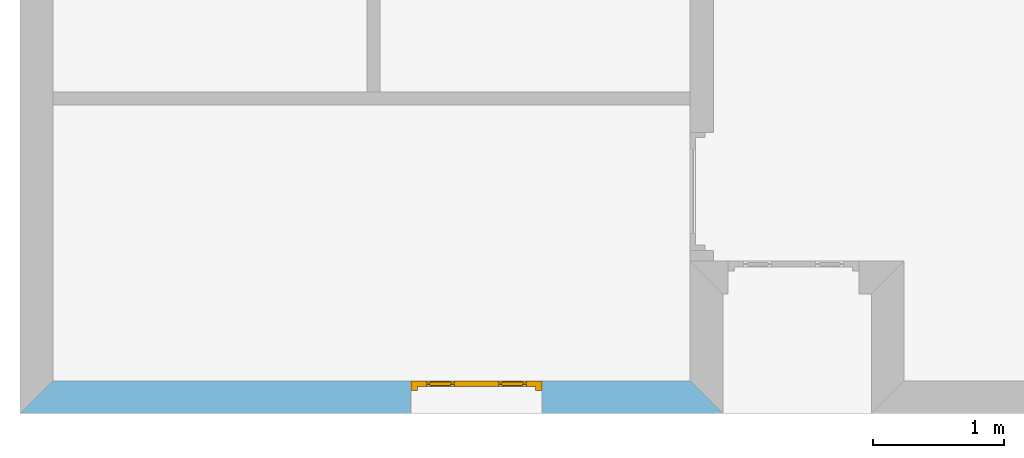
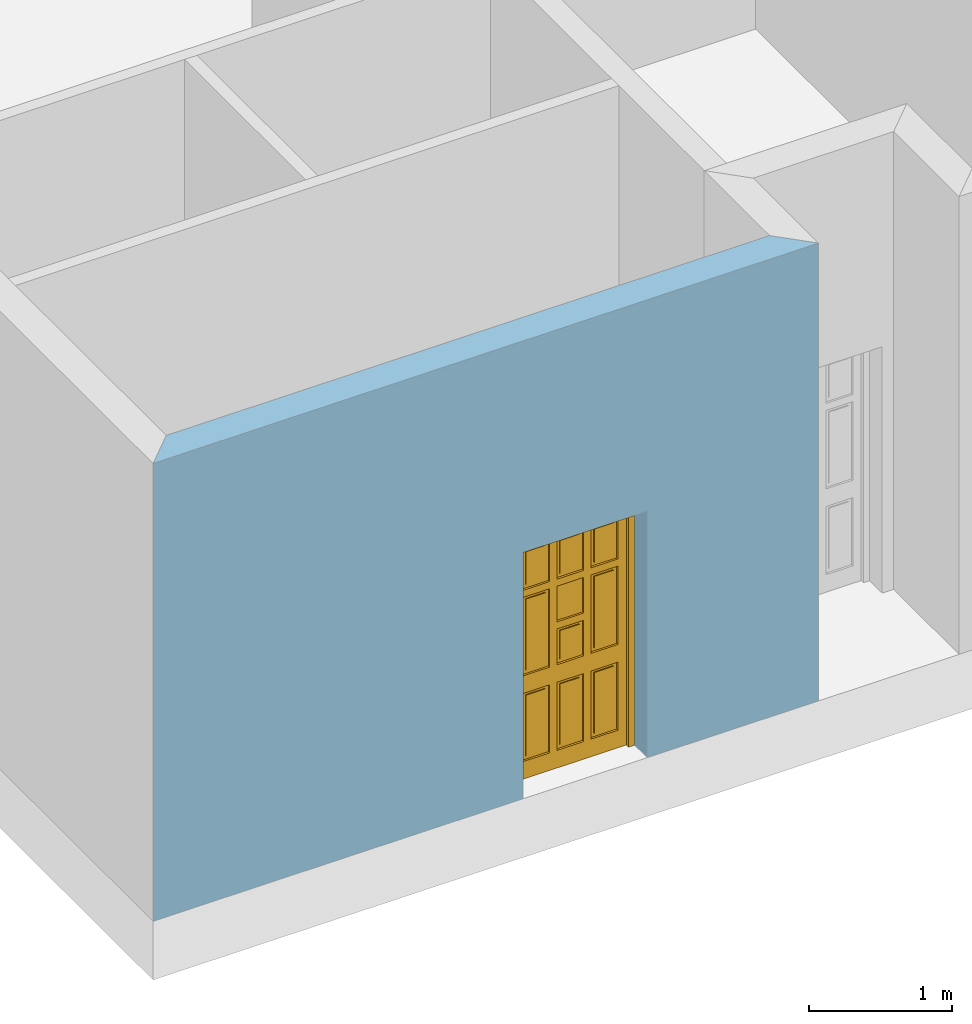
# One storey, part 3 of 5: 1 door, 1 opening, plus 1 element that does not belong to this part.
"""IFC2X3 building model written with IfcOpenShell, lengths in metres."""

from ifc_helpers import new_model, entity, si_unit, converted_unit, direction, frame, frame_2d, origin_with_axes, place, context, project, spatial, polyline, rectangle, outline, extrude, faceted_brep, material, layer, layer_set, layer_usage, type_object, element, fill, save


model = new_model("IFC2X3")

# Units and contexts
context_of_model = context(None, 3, precision=1e-05, world=origin_with_axes(), true_north=direction((6.123234e-17, 1.0)))
plan_context = context("Plan", 3, precision=1e-05, world=origin_with_axes(), true_north=direction((6.123234e-17, 1.0)))
model_context = context("Model", 3, precision=1e-05, world=origin_with_axes(), true_north=direction((6.123234e-17, 1.0)))
ifc_project = project(units=[si_unit("LENGTHUNIT", "METRE"), si_unit("AREAUNIT", "SQUARE_METRE"), si_unit("VOLUMEUNIT", "CUBIC_METRE"), converted_unit("PLANEANGLEUNIT", "DEGREE", entity("IfcPlaneAngleMeasure", 0.017453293), si_unit("PLANEANGLEUNIT", "RADIAN"), dimensions=[0, 0, 0, 0, 0, 0, 0]), si_unit("SOLIDANGLEUNIT", "STERADIAN"), si_unit("MASSUNIT", "GRAM"), si_unit("TIMEUNIT", "SECOND"), si_unit("THERMODYNAMICTEMPERATUREUNIT", "DEGREE_CELSIUS"), si_unit("LUMINOUSINTENSITYUNIT", "LUMEN")], contexts=[context_of_model, plan_context, model_context])

# Site, building, storey
site_placement = place(None, origin_with_axes())
site = spatial("IfcSite", under=ifc_project, at=site_placement, Name="Por defecto Sitio", CompositionType="ELEMENT")
building_placement = place(site_placement, origin_with_axes())
building = spatial("IfcBuilding", under=site, at=building_placement, Name="Por defecto Edificio", CompositionType="ELEMENT")
storey_placement = place(building_placement, origin_with_axes())
storey = spatial("IfcBuildingStorey", under=building, at=storey_placement, Name="Planta Baja", CompositionType="ELEMENT", Elevation=0.0)

# Wall, opening, door
ifc_material = material(Name="Ladrillo común")
ifc_layer = layer(ifc_material, 0.25, ventilated="UNKNOWN")
ifc_layer_set = layer_set([ifc_layer], Name="Ladrillo común")
ifc_layer_usage = layer_usage(ifc_layer_set, "AXIS2", "NEGATIVE", 0.0)
wall_type = type_object("IfcWallType", Name="Ladrillo común", PredefinedType="NOTDEFINED")
wall_placement = place(storey_placement, frame((5.3619878, 0.0, 0.0), z_axis=(0.0, 0.0, 1.0), x_axis=(-1.0, 0.0, 0.0)))
wall = element("IfcWallStandardCase", 1, at=wall_placement, inside=storey, type_object=wall_type, material=ifc_layer_usage, Name="Muro-010", context=context_of_model, shape_type="SweptSolid", body=[
    extrude(outline(polyline([(0.25, -0.25), (5.1119878, -0.25), (5.3619878, 0.0), (0.0, 0.0), (0.25, -0.25)])), origin_with_axes(), (0.0, 0.0, 1.0), 3.9),
])
opening_placement = place(wall_placement, frame((1.8805093, -0.25, 0.0), z_axis=(0.0, 0.0, 1.0), x_axis=(1.0, 0.0, 0.0)))
opening = element("IfcOpeningElement", 2, at=opening_placement, cuts=wall, ObjectType="Opening", context=model_context, shape_type="SweptSolid", body=[
    extrude(rectangle(XDim=1.0, YDim=2.1, at=frame_2d((0.0, 1.05), x_axis=(-1.0, 0.0))), frame((0.0, 0.0, 0.0), z_axis=(0.0, 1.0, 0.0), x_axis=(-1.0, 0.0, 0.0)), (0.0, 0.0, 1.0), 0.25),
])
door_style = type_object("IfcDoorStyle", Name="P1 Entrada 12", ConstructionType="NOTDEFINED", OperationType="SINGLE_SWING_RIGHT", ParameterTakesPrecedence=False, Sizeable=False)
door_placement = place(opening_placement, frame((0.5, 0.075, 0.0), z_axis=(0.0, 0.0, 1.0), x_axis=(-1.0, 0.0, 0.0)))
door = element("IfcDoor", 3, at=door_placement, inside=storey, type_object=door_style, Name="P04", OverallHeight=2.1, OverallWidth=1.0, context=model_context, shape_type="Brep", body=[
    faceted_brep([(0.05, 0.031, -2.694223e-18), (0.05, 0.031, 2.05), (0.05, 2.220446e-16, 2.05), (0.05, 3.3306691e-16, -4.5924255e-18), (0.038, 0.031, 2.05), (0.038, 0.031, -2.694223e-18), (0.038, 0.075, 2.05), (0.0, 0.075, 2.05), (0.0, 2.220446e-16, 2.05), (0.0, 0.0, 0.0), (0.0, 0.075, 3.7493995e-33), (0.038, 0.075, 3.4644451e-33)], [[[0, 1, 2, 3]], [[4, 1, 0, 5]], [[4, 6, 7, 8, 2, 1]], [[9, 3, 2, 8]], [[5, 0, 3, 9, 10, 11]], [[6, 4, 5, 11]], [[6, 11, 10, 7]], [[8, 7, 10, 9]]]),
    faceted_brep([(0.962, 0.031, 2.05), (0.95, 0.031, 2.05), (0.95, 0.0, 2.05), (1.0, 0.0, 2.05), (1.0, 0.075, 2.05), (0.962, 0.075, 2.05), (0.962, 0.031, -2.694223e-18), (0.95, 0.031, -2.694223e-18), (0.95, 1.110223e-16, -4.5924255e-18), (1.0, 1.110223e-16, -4.5924255e-18), (1.0, 0.075, -3.7493995e-33), (0.962, 0.075, -3.4644451e-33)], [[[0, 1, 2, 3, 4, 5]], [[1, 0, 6, 7]], [[1, 7, 8, 2]], [[8, 9, 3, 2]], [[9, 10, 4, 3]], [[11, 5, 4, 10]], [[0, 5, 11, 6]], [[6, 11, 10, 9, 8, 7]]]),
    faceted_brep([(0.038, 0.075, 2.062), (0.038, 0.075, 2.05), (0.0, 0.075, 2.05), (0.0, 0.075, 2.1), (1.0, 0.075, 2.1), (1.0, 0.075, 2.05), (0.962, 0.075, 2.05), (0.962, 0.075, 2.062), (0.038, 0.031, 2.062), (0.038, 0.031, 2.05), (0.05, 0.031, 2.05), (0.05, 2.220446e-16, 2.05), (0.0, 2.220446e-16, 2.05), (0.0, 2.220446e-16, 2.1), (1.0, 0.0, 2.1), (1.0, 0.0, 2.05), (0.962, 0.031, 2.05), (0.95, 0.0, 2.05), (0.95, 0.031, 2.05), (0.962, 0.031, 2.062)], [[[0, 1, 2, 3, 4, 5, 6, 7]], [[1, 0, 8, 9]], [[9, 10, 11, 12, 2, 1]], [[13, 3, 2, 12]], [[14, 4, 3, 13]], [[15, 5, 4, 14]], [[16, 6, 5, 15, 17, 18]], [[7, 6, 16, 19]], [[0, 7, 19, 8]], [[16, 18, 10, 9, 8, 19]], [[10, 18, 17, 11]], [[14, 13, 12, 11, 17, 15]]]),
    faceted_brep([(0.962, 0.075, 0.15), (0.962, 0.031, 0.15), (0.882, 0.031, 0.15), (0.882, 0.075, 0.15), (0.962, 0.075, 1.952), (0.962, 0.031, 1.952), (0.882, 0.031, 1.952), (0.882, 0.031, 1.6085333), (0.882, 0.031, 1.5485333), (0.882, 0.031, 0.88), (0.882, 0.031, 0.73), (0.882, 0.075, 0.73), (0.882, 0.075, 0.88), (0.882, 0.075, 1.5485333), (0.882, 0.075, 1.6085333), (0.882, 0.075, 1.952)], [[[0, 1, 2, 3]], [[4, 5, 1, 0]], [[1, 5, 6, 7, 8, 9, 10, 2]], [[3, 2, 10, 11]], [[0, 3, 11, 12, 13, 14, 15, 4]], [[15, 6, 5, 4]], [[14, 7, 6, 15]], [[13, 8, 7, 14]], [[12, 9, 8, 13]], [[11, 10, 9, 12]]]),
    faceted_brep([(0.038, 0.075, 0.15), (0.038, 0.031, 0.15), (0.038, 0.031, 1.952), (0.038, 0.075, 1.952), (0.118, 0.075, 0.15), (0.118, 0.031, 0.15), (0.118, 0.031, 0.73), (0.118, 0.031, 0.88), (0.118, 0.031, 1.5485333), (0.118, 0.031, 1.6085333), (0.118, 0.031, 1.952), (0.118, 0.075, 1.952), (0.118, 0.075, 1.6085333), (0.118, 0.075, 1.5485333), (0.118, 0.075, 0.88), (0.118, 0.075, 0.73)], [[[0, 1, 2, 3]], [[4, 5, 1, 0]], [[1, 5, 6, 7, 8, 9, 10, 2]], [[3, 2, 10, 11]], [[0, 3, 11, 12, 13, 14, 15, 4]], [[15, 6, 5, 4]], [[14, 7, 6, 15]], [[13, 8, 7, 14]], [[12, 9, 8, 13]], [[11, 10, 9, 12]]]),
    faceted_brep([(0.962, 0.075, -3.4644451e-33), (0.962, 0.031, -2.694223e-18), (0.038, 0.031, -2.694223e-18), (0.038, 0.075, 3.4644451e-33), (0.962, 0.075, 0.15), (0.962, 0.031, 0.15), (0.882, 0.031, 0.15), (0.66733333, 0.031, 0.15), (0.60733333, 0.031, 0.15), (0.39266667, 0.031, 0.15), (0.33266667, 0.031, 0.15), (0.118, 0.031, 0.15), (0.038, 0.031, 0.15), (0.038, 0.075, 0.15), (0.118, 0.075, 0.15), (0.33266667, 0.075, 0.15), (0.39266667, 0.075, 0.15), (0.60733333, 0.075, 0.15), (0.66733333, 0.075, 0.15), (0.882, 0.075, 0.15)], [[[0, 1, 2, 3]], [[4, 5, 1, 0]], [[1, 5, 6, 7, 8, 9, 10, 11, 12, 2]], [[3, 2, 12, 13]], [[0, 3, 13, 14, 15, 16, 17, 18, 19, 4]], [[19, 6, 5, 4]], [[18, 7, 6, 19]], [[17, 8, 7, 18]], [[16, 9, 8, 17]], [[15, 10, 9, 16]], [[14, 11, 10, 15]], [[13, 12, 11, 14]]]),
    faceted_brep([(0.962, 0.075, 2.062), (0.962, 0.031, 2.062), (0.962, 0.031, 1.952), (0.962, 0.075, 1.952), (0.038, 0.075, 2.062), (0.038, 0.031, 2.062), (0.038, 0.031, 1.952), (0.118, 0.031, 1.952), (0.33266667, 0.031, 1.952), (0.39266667, 0.031, 1.952), (0.60733333, 0.031, 1.952), (0.66733333, 0.031, 1.952), (0.882, 0.031, 1.952), (0.882, 0.075, 1.952), (0.66733333, 0.075, 1.952), (0.60733333, 0.075, 1.952), (0.39266667, 0.075, 1.952), (0.33266667, 0.075, 1.952), (0.118, 0.075, 1.952), (0.038, 0.075, 1.952)], [[[0, 1, 2, 3]], [[4, 5, 1, 0]], [[1, 5, 6, 7, 8, 9, 10, 11, 12, 2]], [[3, 2, 12, 13]], [[0, 3, 13, 14, 15, 16, 17, 18, 19, 4]], [[19, 6, 5, 4]], [[18, 7, 6, 19]], [[17, 8, 7, 18]], [[16, 9, 8, 17]], [[15, 10, 9, 16]], [[14, 11, 10, 15]], [[13, 12, 11, 14]]]),
    faceted_brep([(0.60733333, 0.075, 0.15), (0.60733333, 0.031, 0.15), (0.60733333, 0.031, 0.73), (0.60733333, 0.075, 0.73), (0.66733333, 0.075, 0.15), (0.66733333, 0.031, 0.15), (0.66733333, 0.031, 0.73), (0.66733333, 0.075, 0.73)], [[[0, 1, 2, 3]], [[4, 5, 1, 0]], [[1, 5, 6, 2]], [[3, 2, 6, 7]], [[0, 3, 7, 4]], [[7, 6, 5, 4]]]),
    faceted_brep([(0.60733333, 0.075, 0.88), (0.60733333, 0.031, 0.88), (0.60733333, 0.031, 1.1842667), (0.60733333, 0.075, 1.1842667), (0.66733333, 0.075, 0.88), (0.66733333, 0.031, 0.88), (0.66733333, 0.031, 1.5485333), (0.60733333, 0.031, 1.5485333), (0.60733333, 0.031, 1.2442667), (0.60733333, 0.075, 1.2442667), (0.60733333, 0.075, 1.5485333), (0.66733333, 0.075, 1.5485333)], [[[0, 1, 2, 3]], [[4, 5, 1, 0]], [[1, 5, 6, 7, 8, 2]], [[3, 2, 8, 9]], [[0, 3, 9, 10, 11, 4]], [[11, 6, 5, 4]], [[10, 7, 6, 11]], [[9, 8, 7, 10]]]),
    faceted_brep([(0.60733333, 0.075, 1.6085333), (0.60733333, 0.031, 1.6085333), (0.60733333, 0.031, 1.952), (0.60733333, 0.075, 1.952), (0.66733333, 0.075, 1.6085333), (0.66733333, 0.031, 1.6085333), (0.66733333, 0.031, 1.952), (0.66733333, 0.075, 1.952)], [[[0, 1, 2, 3]], [[4, 5, 1, 0]], [[1, 5, 6, 2]], [[3, 2, 6, 7]], [[0, 3, 7, 4]], [[7, 6, 5, 4]]]),
    faceted_brep([(0.33266667, 0.075, 0.15), (0.33266667, 0.031, 0.15), (0.33266667, 0.031, 0.73), (0.33266667, 0.075, 0.73), (0.39266667, 0.075, 0.15), (0.39266667, 0.031, 0.15), (0.39266667, 0.031, 0.73), (0.39266667, 0.075, 0.73)], [[[0, 1, 2, 3]], [[4, 5, 1, 0]], [[1, 5, 6, 2]], [[3, 2, 6, 7]], [[0, 3, 7, 4]], [[7, 6, 5, 4]]]),
    faceted_brep([(0.33266667, 0.075, 0.88), (0.33266667, 0.031, 0.88), (0.33266667, 0.031, 1.5485333), (0.33266667, 0.075, 1.5485333), (0.39266667, 0.075, 0.88), (0.39266667, 0.031, 0.88), (0.39266667, 0.031, 1.1842667), (0.39266667, 0.031, 1.2442667), (0.39266667, 0.031, 1.5485333), (0.39266667, 0.075, 1.5485333), (0.39266667, 0.075, 1.2442667), (0.39266667, 0.075, 1.1842667)], [[[0, 1, 2, 3]], [[4, 5, 1, 0]], [[1, 5, 6, 7, 8, 2]], [[3, 2, 8, 9]], [[0, 3, 9, 10, 11, 4]], [[11, 6, 5, 4]], [[10, 7, 6, 11]], [[9, 8, 7, 10]]]),
    faceted_brep([(0.33266667, 0.075, 1.6085333), (0.33266667, 0.031, 1.6085333), (0.33266667, 0.031, 1.952), (0.33266667, 0.075, 1.952), (0.39266667, 0.075, 1.6085333), (0.39266667, 0.031, 1.6085333), (0.39266667, 0.031, 1.952), (0.39266667, 0.075, 1.952)], [[[0, 1, 2, 3]], [[4, 5, 1, 0]], [[1, 5, 6, 2]], [[3, 2, 6, 7]], [[0, 3, 7, 4]], [[7, 6, 5, 4]]]),
    faceted_brep([(0.882, 0.075, 1.5485333), (0.882, 0.031, 1.5485333), (0.66733333, 0.031, 1.5485333), (0.66733333, 0.075, 1.5485333), (0.882, 0.075, 1.6085333), (0.882, 0.031, 1.6085333), (0.66733333, 0.031, 1.6085333), (0.60733333, 0.031, 1.6085333), (0.39266667, 0.031, 1.6085333), (0.33266667, 0.031, 1.6085333), (0.118, 0.031, 1.6085333), (0.118, 0.031, 1.5485333), (0.33266667, 0.031, 1.5485333), (0.39266667, 0.031, 1.5485333), (0.60733333, 0.031, 1.5485333), (0.60733333, 0.075, 1.5485333), (0.39266667, 0.075, 1.5485333), (0.33266667, 0.075, 1.5485333), (0.118, 0.075, 1.5485333), (0.118, 0.075, 1.6085333), (0.33266667, 0.075, 1.6085333), (0.39266667, 0.075, 1.6085333), (0.60733333, 0.075, 1.6085333), (0.66733333, 0.075, 1.6085333)], [[[0, 1, 2, 3]], [[4, 5, 1, 0]], [[1, 5, 6, 7, 8, 9, 10, 11, 12, 13, 14, 2]], [[3, 2, 14, 15]], [[0, 3, 15, 16, 17, 18, 19, 20, 21, 22, 23, 4]], [[23, 6, 5, 4]], [[22, 7, 6, 23]], [[21, 8, 7, 22]], [[20, 9, 8, 21]], [[19, 10, 9, 20]], [[18, 11, 10, 19]], [[17, 12, 11, 18]], [[16, 13, 12, 17]], [[15, 14, 13, 16]]]),
    faceted_brep([(0.39266667, 0.075, 1.1842667), (0.39266667, 0.031, 1.1842667), (0.39266667, 0.031, 1.2442667), (0.39266667, 0.075, 1.2442667), (0.60733333, 0.075, 1.1842667), (0.60733333, 0.031, 1.1842667), (0.60733333, 0.031, 1.2442667), (0.60733333, 0.075, 1.2442667)], [[[0, 1, 2, 3]], [[4, 5, 1, 0]], [[1, 5, 6, 2]], [[3, 2, 6, 7]], [[0, 3, 7, 4]], [[7, 6, 5, 4]]]),
    faceted_brep([(0.882, 0.075, 0.73), (0.882, 0.031, 0.73), (0.66733333, 0.031, 0.73), (0.66733333, 0.075, 0.73), (0.882, 0.075, 0.88), (0.882, 0.031, 0.88), (0.66733333, 0.031, 0.88), (0.60733333, 0.031, 0.88), (0.39266667, 0.031, 0.88), (0.33266667, 0.031, 0.88), (0.118, 0.031, 0.88), (0.118, 0.031, 0.73), (0.33266667, 0.031, 0.73), (0.39266667, 0.031, 0.73), (0.60733333, 0.031, 0.73), (0.60733333, 0.075, 0.73), (0.39266667, 0.075, 0.73), (0.33266667, 0.075, 0.73), (0.118, 0.075, 0.73), (0.118, 0.075, 0.88), (0.33266667, 0.075, 0.88), (0.39266667, 0.075, 0.88), (0.60733333, 0.075, 0.88), (0.66733333, 0.075, 0.88)], [[[0, 1, 2, 3]], [[4, 5, 1, 0]], [[1, 5, 6, 7, 8, 9, 10, 11, 12, 13, 14, 2]], [[3, 2, 14, 15]], [[0, 3, 15, 16, 17, 18, 19, 20, 21, 22, 23, 4]], [[23, 6, 5, 4]], [[22, 7, 6, 23]], [[21, 8, 7, 22]], [[20, 9, 8, 21]], [[19, 10, 9, 20]], [[18, 11, 10, 19]], [[17, 12, 11, 18]], [[16, 13, 12, 17]], [[15, 14, 13, 16]]]),
    faceted_brep([(0.882, 0.058, 0.15), (0.882, 0.048, 0.15), (0.66733333, 0.048, 0.15), (0.66733333, 0.058, 0.15), (0.882, 0.058, 0.73), (0.882, 0.048, 0.73), (0.66733333, 0.048, 0.73), (0.66733333, 0.058, 0.73)], [[[0, 1, 2, 3]], [[4, 5, 1, 0]], [[1, 5, 6, 2]], [[3, 2, 6, 7]], [[0, 3, 7, 4]], [[7, 6, 5, 4]]]),
    faceted_brep([(0.60733333, 0.058, 0.15), (0.60733333, 0.048, 0.15), (0.39266667, 0.048, 0.15), (0.39266667, 0.058, 0.15), (0.60733333, 0.058, 0.73), (0.60733333, 0.048, 0.73), (0.39266667, 0.048, 0.73), (0.39266667, 0.058, 0.73)], [[[0, 1, 2, 3]], [[4, 5, 1, 0]], [[1, 5, 6, 2]], [[3, 2, 6, 7]], [[0, 3, 7, 4]], [[7, 6, 5, 4]]]),
    faceted_brep([(0.33266667, 0.058, 0.15), (0.33266667, 0.048, 0.15), (0.118, 0.048, 0.15), (0.118, 0.058, 0.15), (0.33266667, 0.058, 0.73), (0.33266667, 0.048, 0.73), (0.118, 0.048, 0.73), (0.118, 0.058, 0.73)], [[[0, 1, 2, 3]], [[4, 5, 1, 0]], [[1, 5, 6, 2]], [[3, 2, 6, 7]], [[0, 3, 7, 4]], [[7, 6, 5, 4]]]),
    faceted_brep([(0.882, 0.058, 1.6085333), (0.882, 0.048, 1.6085333), (0.66733333, 0.048, 1.6085333), (0.66733333, 0.058, 1.6085333), (0.882, 0.058, 1.952), (0.882, 0.048, 1.952), (0.66733333, 0.048, 1.952), (0.66733333, 0.058, 1.952)], [[[0, 1, 2, 3]], [[4, 5, 1, 0]], [[1, 5, 6, 2]], [[3, 2, 6, 7]], [[0, 3, 7, 4]], [[7, 6, 5, 4]]]),
    faceted_brep([(0.60733333, 0.058, 1.6085333), (0.60733333, 0.048, 1.6085333), (0.39266667, 0.048, 1.6085333), (0.39266667, 0.058, 1.6085333), (0.60733333, 0.058, 1.952), (0.60733333, 0.048, 1.952), (0.39266667, 0.048, 1.952), (0.39266667, 0.058, 1.952)], [[[0, 1, 2, 3]], [[4, 5, 1, 0]], [[1, 5, 6, 2]], [[3, 2, 6, 7]], [[0, 3, 7, 4]], [[7, 6, 5, 4]]]),
    faceted_brep([(0.33266667, 0.058, 1.6085333), (0.33266667, 0.048, 1.6085333), (0.118, 0.048, 1.6085333), (0.118, 0.058, 1.6085333), (0.33266667, 0.058, 1.952), (0.33266667, 0.048, 1.952), (0.118, 0.048, 1.952), (0.118, 0.058, 1.952)], [[[0, 1, 2, 3]], [[4, 5, 1, 0]], [[1, 5, 6, 2]], [[3, 2, 6, 7]], [[0, 3, 7, 4]], [[7, 6, 5, 4]]]),
    faceted_brep([(0.882, 0.058, 0.88), (0.882, 0.048, 0.88), (0.66733333, 0.048, 0.88), (0.66733333, 0.058, 0.88), (0.882, 0.058, 1.5485333), (0.882, 0.048, 1.5485333), (0.66733333, 0.048, 1.5485333), (0.66733333, 0.058, 1.5485333)], [[[0, 1, 2, 3]], [[4, 5, 1, 0]], [[1, 5, 6, 2]], [[3, 2, 6, 7]], [[0, 3, 7, 4]], [[7, 6, 5, 4]]]),
    faceted_brep([(0.60733333, 0.058, 0.88), (0.60733333, 0.048, 0.88), (0.39266667, 0.048, 0.88), (0.39266667, 0.058, 0.88), (0.60733333, 0.058, 1.1842667), (0.60733333, 0.048, 1.1842667), (0.39266667, 0.048, 1.1842667), (0.39266667, 0.058, 1.1842667)], [[[0, 1, 2, 3]], [[4, 5, 1, 0]], [[1, 5, 6, 2]], [[3, 2, 6, 7]], [[0, 3, 7, 4]], [[7, 6, 5, 4]]]),
    faceted_brep([(0.33266667, 0.058, 0.88), (0.33266667, 0.048, 0.88), (0.118, 0.048, 0.88), (0.118, 0.058, 0.88), (0.33266667, 0.058, 1.5485333), (0.33266667, 0.048, 1.5485333), (0.118, 0.048, 1.5485333), (0.118, 0.058, 1.5485333)], [[[0, 1, 2, 3]], [[4, 5, 1, 0]], [[1, 5, 6, 2]], [[3, 2, 6, 7]], [[0, 3, 7, 4]], [[7, 6, 5, 4]]]),
    faceted_brep([(0.60733333, 0.058, 1.2442667), (0.60733333, 0.048, 1.2442667), (0.39266667, 0.048, 1.2442667), (0.39266667, 0.058, 1.2442667), (0.60733333, 0.058, 1.5485333), (0.60733333, 0.048, 1.5485333), (0.39266667, 0.048, 1.5485333), (0.39266667, 0.058, 1.5485333)], [[[0, 1, 2, 3]], [[4, 5, 1, 0]], [[1, 5, 6, 2]], [[3, 2, 6, 7]], [[0, 3, 7, 4]], [[7, 6, 5, 4]]]),
    faceted_brep([(0.852, 0.066, 0.18), (0.852, 0.058, 0.18), (0.69733333, 0.058, 0.18), (0.69733333, 0.066, 0.18), (0.852, 0.066, 0.7), (0.852, 0.058, 0.7), (0.69733333, 0.058, 0.7), (0.69733333, 0.066, 0.7)], [[[0, 1, 2, 3]], [[4, 5, 1, 0]], [[1, 5, 6, 2]], [[3, 2, 6, 7]], [[0, 3, 7, 4]], [[7, 6, 5, 4]]]),
    faceted_brep([(0.57733333, 0.066, 0.18), (0.57733333, 0.058, 0.18), (0.42266667, 0.058, 0.18), (0.42266667, 0.066, 0.18), (0.57733333, 0.066, 0.7), (0.57733333, 0.058, 0.7), (0.42266667, 0.058, 0.7), (0.42266667, 0.066, 0.7)], [[[0, 1, 2, 3]], [[4, 5, 1, 0]], [[1, 5, 6, 2]], [[3, 2, 6, 7]], [[0, 3, 7, 4]], [[7, 6, 5, 4]]]),
    faceted_brep([(0.30266667, 0.066, 0.18), (0.30266667, 0.058, 0.18), (0.148, 0.058, 0.18), (0.148, 0.066, 0.18), (0.30266667, 0.066, 0.7), (0.30266667, 0.058, 0.7), (0.148, 0.058, 0.7), (0.148, 0.066, 0.7)], [[[0, 1, 2, 3]], [[4, 5, 1, 0]], [[1, 5, 6, 2]], [[3, 2, 6, 7]], [[0, 3, 7, 4]], [[7, 6, 5, 4]]]),
    faceted_brep([(0.852, 0.066, 1.6385333), (0.852, 0.058, 1.6385333), (0.69733333, 0.058, 1.6385333), (0.69733333, 0.066, 1.6385333), (0.852, 0.066, 1.922), (0.852, 0.058, 1.922), (0.69733333, 0.058, 1.922), (0.69733333, 0.066, 1.922)], [[[0, 1, 2, 3]], [[4, 5, 1, 0]], [[1, 5, 6, 2]], [[3, 2, 6, 7]], [[0, 3, 7, 4]], [[7, 6, 5, 4]]]),
    faceted_brep([(0.57733333, 0.066, 1.6385333), (0.57733333, 0.058, 1.6385333), (0.42266667, 0.058, 1.6385333), (0.42266667, 0.066, 1.6385333), (0.57733333, 0.066, 1.922), (0.57733333, 0.058, 1.922), (0.42266667, 0.058, 1.922), (0.42266667, 0.066, 1.922)], [[[0, 1, 2, 3]], [[4, 5, 1, 0]], [[1, 5, 6, 2]], [[3, 2, 6, 7]], [[0, 3, 7, 4]], [[7, 6, 5, 4]]]),
    faceted_brep([(0.30266667, 0.066, 1.6385333), (0.30266667, 0.058, 1.6385333), (0.148, 0.058, 1.6385333), (0.148, 0.066, 1.6385333), (0.30266667, 0.066, 1.922), (0.30266667, 0.058, 1.922), (0.148, 0.058, 1.922), (0.148, 0.066, 1.922)], [[[0, 1, 2, 3]], [[4, 5, 1, 0]], [[1, 5, 6, 2]], [[3, 2, 6, 7]], [[0, 3, 7, 4]], [[7, 6, 5, 4]]]),
    faceted_brep([(0.852, 0.066, 0.91), (0.852, 0.058, 0.91), (0.69733333, 0.058, 0.91), (0.69733333, 0.066, 0.91), (0.852, 0.066, 1.5185333), (0.852, 0.058, 1.5185333), (0.69733333, 0.058, 1.5185333), (0.69733333, 0.066, 1.5185333)], [[[0, 1, 2, 3]], [[4, 5, 1, 0]], [[1, 5, 6, 2]], [[3, 2, 6, 7]], [[0, 3, 7, 4]], [[7, 6, 5, 4]]]),
    faceted_brep([(0.57733333, 0.066, 0.91), (0.57733333, 0.058, 0.91), (0.42266667, 0.058, 0.91), (0.42266667, 0.066, 0.91), (0.57733333, 0.066, 1.1542667), (0.57733333, 0.058, 1.1542667), (0.42266667, 0.058, 1.1542667), (0.42266667, 0.066, 1.1542667)], [[[0, 1, 2, 3]], [[4, 5, 1, 0]], [[1, 5, 6, 2]], [[3, 2, 6, 7]], [[0, 3, 7, 4]], [[7, 6, 5, 4]]]),
    faceted_brep([(0.30266667, 0.066, 0.91), (0.30266667, 0.058, 0.91), (0.148, 0.058, 0.91), (0.148, 0.066, 0.91), (0.30266667, 0.066, 1.5185333), (0.30266667, 0.058, 1.5185333), (0.148, 0.058, 1.5185333), (0.148, 0.066, 1.5185333)], [[[0, 1, 2, 3]], [[4, 5, 1, 0]], [[1, 5, 6, 2]], [[3, 2, 6, 7]], [[0, 3, 7, 4]], [[7, 6, 5, 4]]]),
    faceted_brep([(0.852, 0.048, 0.18), (0.852, 0.04, 0.18), (0.69733333, 0.04, 0.18), (0.69733333, 0.048, 0.18), (0.852, 0.048, 0.7), (0.852, 0.04, 0.7), (0.69733333, 0.04, 0.7), (0.69733333, 0.048, 0.7)], [[[0, 1, 2, 3]], [[4, 5, 1, 0]], [[1, 5, 6, 2]], [[3, 2, 6, 7]], [[0, 3, 7, 4]], [[7, 6, 5, 4]]]),
    faceted_brep([(0.57733333, 0.048, 0.18), (0.57733333, 0.04, 0.18), (0.42266667, 0.04, 0.18), (0.42266667, 0.048, 0.18), (0.57733333, 0.048, 0.7), (0.57733333, 0.04, 0.7), (0.42266667, 0.04, 0.7), (0.42266667, 0.048, 0.7)], [[[0, 1, 2, 3]], [[4, 5, 1, 0]], [[1, 5, 6, 2]], [[3, 2, 6, 7]], [[0, 3, 7, 4]], [[7, 6, 5, 4]]]),
    faceted_brep([(0.30266667, 0.048, 0.18), (0.30266667, 0.04, 0.18), (0.148, 0.04, 0.18), (0.148, 0.048, 0.18), (0.30266667, 0.048, 0.7), (0.30266667, 0.04, 0.7), (0.148, 0.04, 0.7), (0.148, 0.048, 0.7)], [[[0, 1, 2, 3]], [[4, 5, 1, 0]], [[1, 5, 6, 2]], [[3, 2, 6, 7]], [[0, 3, 7, 4]], [[7, 6, 5, 4]]]),
    faceted_brep([(0.852, 0.048, 1.6385333), (0.852, 0.04, 1.6385333), (0.69733333, 0.04, 1.6385333), (0.69733333, 0.048, 1.6385333), (0.852, 0.048, 1.922), (0.852, 0.04, 1.922), (0.69733333, 0.04, 1.922), (0.69733333, 0.048, 1.922)], [[[0, 1, 2, 3]], [[4, 5, 1, 0]], [[1, 5, 6, 2]], [[3, 2, 6, 7]], [[0, 3, 7, 4]], [[7, 6, 5, 4]]]),
    faceted_brep([(0.57733333, 0.048, 1.6385333), (0.57733333, 0.04, 1.6385333), (0.42266667, 0.04, 1.6385333), (0.42266667, 0.048, 1.6385333), (0.57733333, 0.048, 1.922), (0.57733333, 0.04, 1.922), (0.42266667, 0.04, 1.922), (0.42266667, 0.048, 1.922)], [[[0, 1, 2, 3]], [[4, 5, 1, 0]], [[1, 5, 6, 2]], [[3, 2, 6, 7]], [[0, 3, 7, 4]], [[7, 6, 5, 4]]]),
    faceted_brep([(0.30266667, 0.048, 1.6385333), (0.30266667, 0.04, 1.6385333), (0.148, 0.04, 1.6385333), (0.148, 0.048, 1.6385333), (0.30266667, 0.048, 1.922), (0.30266667, 0.04, 1.922), (0.148, 0.04, 1.922), (0.148, 0.048, 1.922)], [[[0, 1, 2, 3]], [[4, 5, 1, 0]], [[1, 5, 6, 2]], [[3, 2, 6, 7]], [[0, 3, 7, 4]], [[7, 6, 5, 4]]]),
    faceted_brep([(0.852, 0.048, 0.91), (0.852, 0.04, 0.91), (0.69733333, 0.04, 0.91), (0.69733333, 0.048, 0.91), (0.852, 0.048, 1.5185333), (0.852, 0.04, 1.5185333), (0.69733333, 0.04, 1.5185333), (0.69733333, 0.048, 1.5185333)], [[[0, 1, 2, 3]], [[4, 5, 1, 0]], [[1, 5, 6, 2]], [[3, 2, 6, 7]], [[0, 3, 7, 4]], [[7, 6, 5, 4]]]),
    faceted_brep([(0.57733333, 0.048, 0.91), (0.57733333, 0.04, 0.91), (0.42266667, 0.04, 0.91), (0.42266667, 0.048, 0.91), (0.57733333, 0.048, 1.1542667), (0.57733333, 0.04, 1.1542667), (0.42266667, 0.04, 1.1542667), (0.42266667, 0.048, 1.1542667)], [[[0, 1, 2, 3]], [[4, 5, 1, 0]], [[1, 5, 6, 2]], [[3, 2, 6, 7]], [[0, 3, 7, 4]], [[7, 6, 5, 4]]]),
    faceted_brep([(0.30266667, 0.048, 0.91), (0.30266667, 0.04, 0.91), (0.148, 0.04, 0.91), (0.148, 0.048, 0.91), (0.30266667, 0.048, 1.5185333), (0.30266667, 0.04, 1.5185333), (0.148, 0.04, 1.5185333), (0.148, 0.048, 1.5185333)], [[[0, 1, 2, 3]], [[4, 5, 1, 0]], [[1, 5, 6, 2]], [[3, 2, 6, 7]], [[0, 3, 7, 4]], [[7, 6, 5, 4]]]),
])
fill(opening, door)

save(model, "model.ifc")
